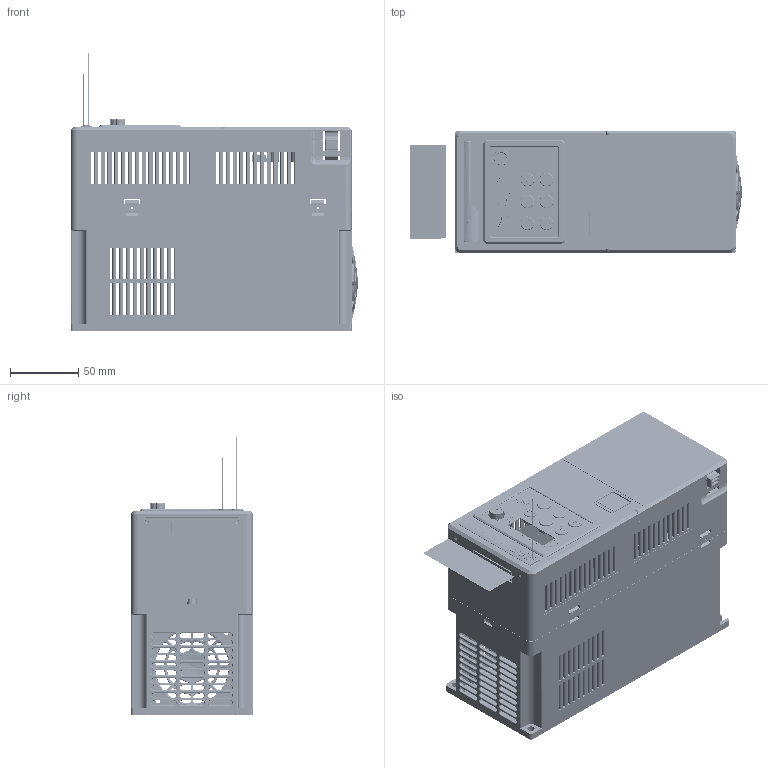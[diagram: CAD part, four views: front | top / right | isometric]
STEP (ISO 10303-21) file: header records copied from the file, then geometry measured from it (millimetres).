
FILE_DESCRIPTION((''),'2;1');
FILE_NAME('1-NVF5-0055TS3-20170720_ASM_ASM','2021-06-23T15:25:53',('zhongfl'),(''),'CREO PARAMETRIC BY PTC INC, 2020044','CREO PARAMETRIC BY PTC INC, 2020044','');
FILE_SCHEMA(('CONFIG_CONTROL_DESIGN','SHAPE_APPEARANCE_LAYERS_GROUPS'));
Products named in the file (49): PRT0001_7_39_5; 8ZTD-325-265-DB_1_2_7_18; FAN-5-5-ASM_ASM_2_ASM_6_ASM_1_A_ASM; COPPER-PIPE_12D2_2_1_2_1_3_1; M3-NUT_3_3_1_4_1; BOTTOM-SHELL-5-5_ASM_8_ASM_14_A_ASM; BOTTOM-SHELL-5-5_ASM_ASM_26_ASM_ASM; BOTTOM-PLATE-5D5_18_1_3_1_6_1; SCREW_3_1; BOTTOM-PLATE-5D5_ASM_2_ASM_1_ASM; BOTTOM-SHELL-5-5_ASM_ASM_ASM_5__ASM; 5ZTD-355-083-C_3; PVC-KEY-BRAND_71_1_3_3_3_1; PVC-BRABD-2_6_5_2_3_1_3_1; M3-NUT_3_1_1_4_1; TOP-SHRLL-0055CT-QIAO_ASM_16_AS_ASM; RUBBER-COVER_32_1_3_1_3_2; MANIFOLD_SOLID_BREP_1564_1_1_3_; MANIFOLD_SOLID_BREP_1565_1_1_2_; MANIFOLD_SOLID_BREP_1566_1_1_3_; MANIFOLD_SOLID_BREP_1567_1_1_3_; MANIFOLD_SOLID_BREP_1568_1_1_3_; BREP_1_3_1_2_1_3_1_1; CHINT-74-10_ASM_3_ASM_1_ASM_2_A_ASM; KWY-PLASTIC_27_1_1_2_1_3_3; TOP-SHELL-0022CT_ASM_198_ASM_35_ASM; TOP-COVER_140_84_11_8_4_2; PRT0017_1_2_1_3_1; ASM0002_ASM_2_ASM_1_ASM_1_ASM_1_ASM; ASM0001_ASM_16_ASM_1_ASM_1_ASM__ASM; MANIFOLD_SOLID_BREP_37332_1_3_1; MANIFOLD_SOLID_BREP_37525_1_3_1; MANIFOLD_SOLID_BREP_37718_1_3_1; MANIFOLD_SOLID_BREP_37911_1_3_1; MANIFOLD_SOLID_BREP_38104_1_3_1; MANIFOLD_SOLID_BREP_38297_1_3_1; MANIFOLD_SOLID_BREP_38490_1_3_1; MANIFOLD_SOLID_BREP_38683_1_3_1; MANIFOLD_SOLID_BREP_38876_1_3_1; MANIFOLD_SOLID_BREP_39069_1_3_1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
Assembly tree (57 placements, depth 7):
  1-NVF5-0055TS3-20170720_ASM_ASM
    1-NVF5-0055TS3-20170720_ASM_13_ASM
      BOTTOM-SHELL-5-5_ASM_ASM_ASM_5__ASM
        BOTTOM-SHELL-5-5_ASM_ASM_26_ASM_ASM
          BOTTOM-SHELL-5-5_ASM_8_ASM_14_A_ASM
            PRT0001_7_39_5
            FAN-5-5-ASM_ASM_2_ASM_6_ASM_1_A_ASM
              8ZTD-325-265-DB_1_2_7_18
            COPPER-PIPE_12D2_2_1_2_1_3_1
            M3-NUT_3_3_1_4_1  x2
        BOTTOM-PLATE-5D5_ASM_2_ASM_1_ASM
          BOTTOM-PLATE-5D5_18_1_3_1_6_1
          SCREW_3_1
      TOP-SHELL-0022CT_ASM_ASM_97_ASM_ASM
        TOP-SHELL-0022CT_ASM_198_ASM_35_ASM
          TOP-SHRLL-0055CT-QIAO_ASM_16_AS_ASM
            5ZTD-355-083-C_3
            M3-NUT_3_3_1_4_1  x2
            PVC-KEY-BRAND_71_1_3_3_3_1
            PVC-BRABD-2_6_5_2_3_1_3_1
            M3-NUT_3_1_1_4_1  x2
          RUBBER-COVER_32_1_3_1_3_2
          CHINT-74-10_ASM_3_ASM_1_ASM_2_A_ASM
            MANIFOLD_SOLID_BREP_1564_1_1_3_
            MANIFOLD_SOLID_BREP_1565_1_1_2_
            MANIFOLD_SOLID_BREP_1566_1_1_3_
            MANIFOLD_SOLID_BREP_1567_1_1_3_
            MANIFOLD_SOLID_BREP_1568_1_1_3_
            BREP_1_3_1_2_1_3_1_1
          KWY-PLASTIC_27_1_1_2_1_3_3  x6
        TOP-COVER_140_84_11_8_4_2
        ASM0001_ASM_16_ASM_1_ASM_1_ASM__ASM
          ASM0002_ASM_2_ASM_1_ASM_1_ASM_1_ASM
            PRT0017_1_2_1_3_1
        PCB-K04_ASM_10_ASM_ASM_ASM_4_AS_ASM
          PCB-K04_ASM_10_ASM_ASM_30_ASM_1_ASM
            JACK-20P_7_ASM_1_ASM_1_ASM_1_ASM
              MANIFOLD_SOLID_BREP_37332_1_3_1
              MANIFOLD_SOLID_BREP_37525_1_3_1
              MANIFOLD_SOLID_BREP_37718_1_3_1
              MANIFOLD_SOLID_BREP_37911_1_3_1
              MANIFOLD_SOLID_BREP_38104_1_3_1
              MANIFOLD_SOLID_BREP_38297_1_3_1
              MANIFOLD_SOLID_BREP_38490_1_3_1
              MANIFOLD_SOLID_BREP_38683_1_3_1
              MANIFOLD_SOLID_BREP_38876_1_3_1
              MANIFOLD_SOLID_BREP_39069_1_3_1
              MANIFOLD_SOLID_BREP_39262_1_3_1
            JACK-20P-B_9_1_3_1
        PRODUCT_228829_22_2_2
Bounding box: 243.2 x 89.5 x 203.52 mm (x, y, z)
Volume: 300586 mm3; surface area: 354126.2 mm2
Topology: 39 solids, 48 shells, 7432 faces, 21042 edges, 13961 vertices
Faces by surface type: plane 5046, cylinder 1540, bspline 251, extrusion 229, torus 218, cone 129, sphere 19
Entity records: 315906 total; most frequent: CARTESIAN_POINT 81924, ORIENTED_EDGE 39101, DIRECTION 35015, EDGE_CURVE 19573, VECTOR 14653, LINE 14424, VERTEX_POINT 12979, AXIS2_PLACEMENT_3D 10181
